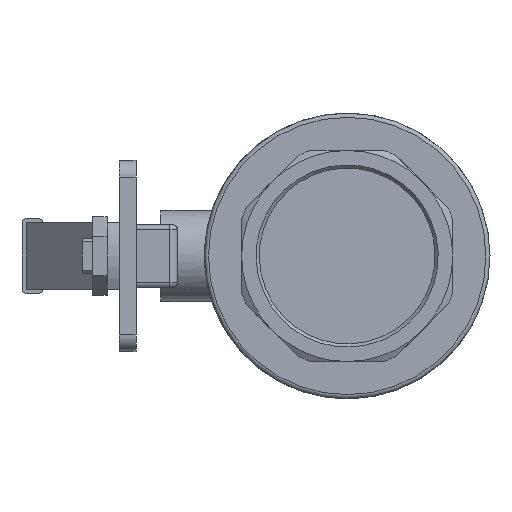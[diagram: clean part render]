
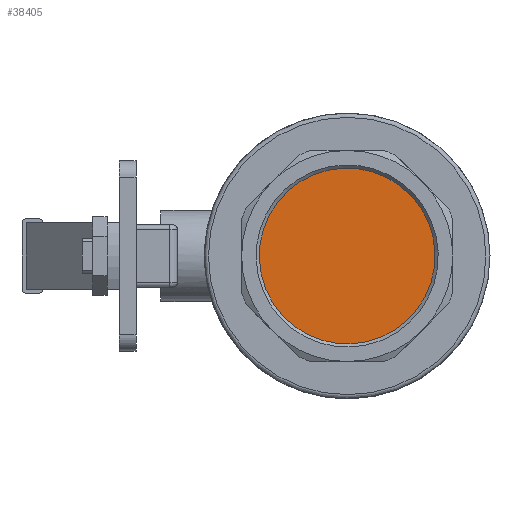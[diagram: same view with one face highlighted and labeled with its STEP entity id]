
A CAD part, left-side view. The second image highlights one B-rep face of the part: STEP entity #38405.
In plain terms, the highlighted planar face has unit normal (-1, 0, 0).
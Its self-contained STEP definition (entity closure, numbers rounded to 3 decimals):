
#38385=CARTESIAN_POINT('',(-51.5,16.25,39.231));
#38386=VERTEX_POINT('',#38385);
#38387=CARTESIAN_POINT('',(-51.5,0.,0.));
#38388=DIRECTION('',(-1.0,0.0,0.0));
#38389=DIRECTION('',(0.0,0.383,0.924));
#38390=AXIS2_PLACEMENT_3D('',#38387,#38388,#38389);
#38391=CIRCLE('',#38390,42.463);
#38392=EDGE_CURVE('',#38386,#38386,#38391,.T.);
#38397=CARTESIAN_POINT('',(-51.5,0.,0.));
#38398=DIRECTION('',(-1.0,0.0,0.0));
#38399=DIRECTION('',(0.0,0.0,1.0));
#38400=AXIS2_PLACEMENT_3D('',#38397,#38398,#38399);
#38401=PLANE('',#38400);
#38402=ORIENTED_EDGE('',*,*,#38392,.T.);
#38403=EDGE_LOOP('',(#38402));
#38404=FACE_OUTER_BOUND('',#38403,.T.);
#38405=ADVANCED_FACE('',(#38404),#38401,.T.);
